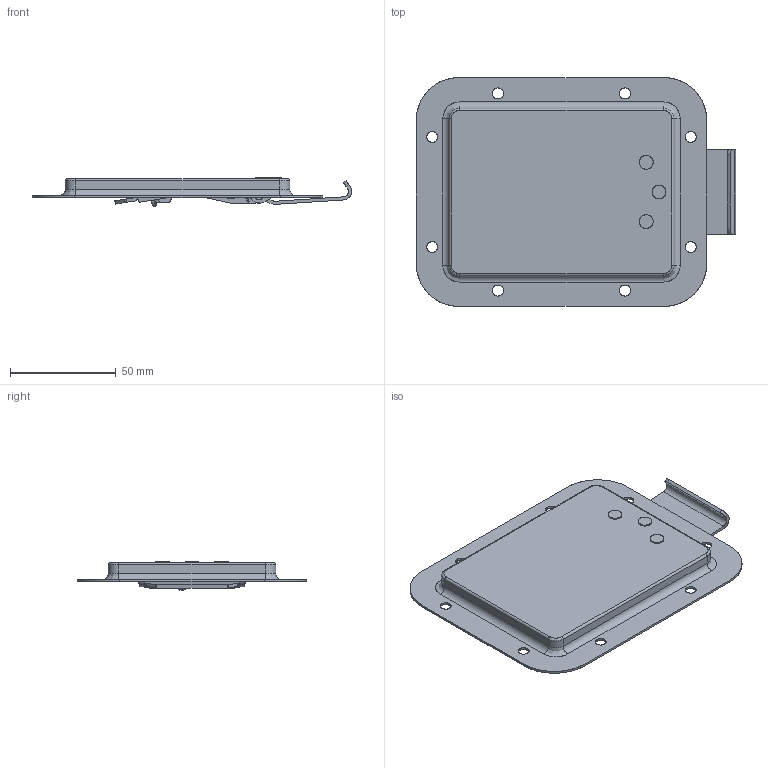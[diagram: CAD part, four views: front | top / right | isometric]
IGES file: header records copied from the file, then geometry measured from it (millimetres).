
Start section: SolidWorks IGES file using analytic representation for surfaces
Global section: file name: Y:\Plans Solidworks\0 à 1000\Gamme GE\GE 1041.IGS; native system: SolidWorks 2017; preprocessor: SolidWorks 2017; author: cbrechard; date: 220623.115229; units: millimetre
Bounding box: 150.7 x 108 x 13.65 mm (x, y, z)
Surface area: 52746.3 mm2 (no closed solid volume)
Topology: 0 solids, 0 shells, 444 faces, 6396 edges, 6394 vertices
Faces by surface type: bspline 258, revolution 186
